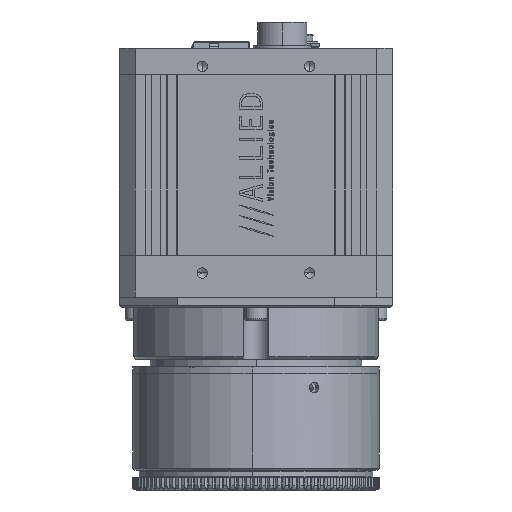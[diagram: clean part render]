
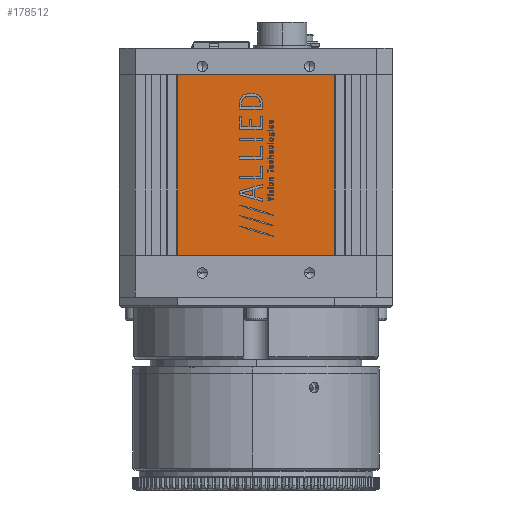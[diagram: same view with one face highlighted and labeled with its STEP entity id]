
A CAD part, left-side view. The second image highlights one B-rep face of the part: STEP entity #178512.
In plain terms, the highlighted planar face has unit normal (-1, 0, 0).
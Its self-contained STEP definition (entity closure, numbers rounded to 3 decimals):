
#1048 = DIRECTION ( 'NONE',  ( 0., 0., 1. ) ) ;
#1625 = CARTESIAN_POINT ( 'NONE',  ( -32.572, -19.117, -93.564 ) ) ;
#7722 = EDGE_CURVE ( 'NONE', #67539, #55225, #221889, .T. ) ;
#43072 = EDGE_CURVE ( 'NONE', #128177, #67539, #65922, .T. ) ;
#47887 = EDGE_CURVE ( 'NONE', #55225, #101783, #207297, .T. ) ;
#52420 = VECTOR ( 'NONE', #227401, 1000. ) ;
#55225 = VERTEX_POINT ( 'NONE', #101641 ) ;
#58487 = LINE ( 'NONE', #133105, #52420 ) ;
#59970 = VECTOR ( 'NONE', #85753, 1000. ) ;
#65922 = LINE ( 'NONE', #86244, #59970 ) ;
#67539 = VERTEX_POINT ( 'NONE', #75661 ) ;
#67569 = VECTOR ( 'NONE', #1048, 1000. ) ;
#75661 = CARTESIAN_POINT ( 'NONE',  ( -32.572, 19.117, 0. ) ) ;
#85753 = DIRECTION ( 'NONE',  ( 0., 0., -1. ) ) ;
#86244 = CARTESIAN_POINT ( 'NONE',  ( -32.572, 19.117, -93.564 ) ) ;
#92696 = DIRECTION ( 'NONE',  ( -1., 0., 0. ) ) ;
#92828 = CARTESIAN_POINT ( 'NONE',  ( -32.572, 19.117, 43.688 ) ) ;
#101641 = CARTESIAN_POINT ( 'NONE',  ( -32.572, -19.117, 0. ) ) ;
#101783 = VERTEX_POINT ( 'NONE', #136852 ) ;
#107739 = DIRECTION ( 'NONE',  ( 0., -1., 0. ) ) ;
#109055 = CARTESIAN_POINT ( 'NONE',  ( -32.572, 19.117, 0. ) ) ;
#112422 = EDGE_CURVE ( 'NONE', #101783, #128177, #58487, .T. ) ;
#114725 = EDGE_LOOP ( 'NONE', ( #191325, #119445, #132856, #160187 ) ) ;
#119445 = ORIENTED_EDGE ( 'NONE', *, *, #43072, .T. ) ;
#121723 = VECTOR ( 'NONE', #107739, 1000. ) ;
#128177 = VERTEX_POINT ( 'NONE', #92828 ) ;
#130217 = PLANE ( 'NONE',  #230922 ) ;
#132856 = ORIENTED_EDGE ( 'NONE', *, *, #7722, .T. ) ;
#133105 = CARTESIAN_POINT ( 'NONE',  ( -32.572, 19.117, 43.688 ) ) ;
#136852 = CARTESIAN_POINT ( 'NONE',  ( -32.572, -19.117, 43.688 ) ) ;
#160187 = ORIENTED_EDGE ( 'NONE', *, *, #47887, .T. ) ;
#178512 = ADVANCED_FACE ( 'NONE', ( #190924 ), #130217, .T. ) ;
#190924 = FACE_OUTER_BOUND ( 'NONE', #114725, .T. ) ;
#191325 = ORIENTED_EDGE ( 'NONE', *, *, #112422, .T. ) ;
#206248 = CARTESIAN_POINT ( 'NONE',  ( -32.572, 19.117, -93.564 ) ) ;
#207297 = LINE ( 'NONE', #1625, #67569 ) ;
#221889 = LINE ( 'NONE', #109055, #121723 ) ;
#224715 = DIRECTION ( 'NONE',  ( 0., 0., 1. ) ) ;
#227401 = DIRECTION ( 'NONE',  ( 0., 1., 0. ) ) ;
#230922 = AXIS2_PLACEMENT_3D ( 'NONE', #206248, #92696, #224715 ) ;
